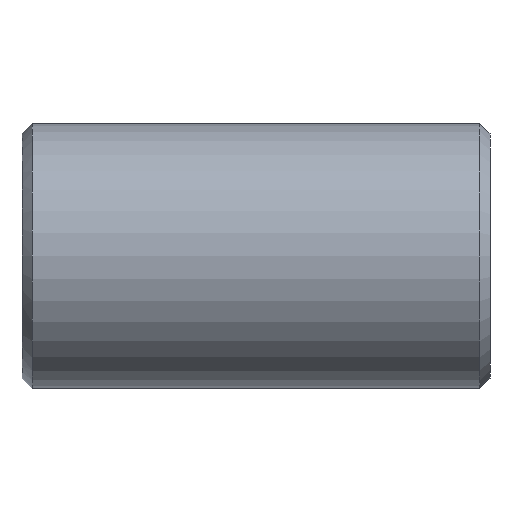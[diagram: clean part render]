
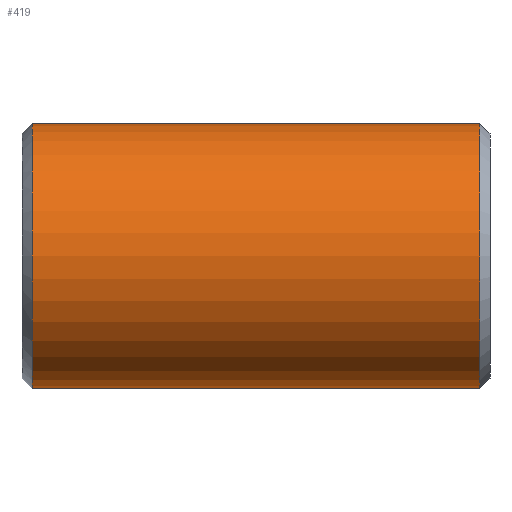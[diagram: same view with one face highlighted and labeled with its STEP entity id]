
A CAD part, front view. The second image highlights one B-rep face of the part: STEP entity #419.
In plain terms, the highlighted cylindrical face has radius 13 mm (diameter 26 mm), a partial arc.
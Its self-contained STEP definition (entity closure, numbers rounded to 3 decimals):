
#231=CARTESIAN_POINT('Vertex',(1.,0.,-13.)) ;
#238=CARTESIAN_POINT('Vertex',(1.,0.,13.)) ;
#267=CARTESIAN_POINT('Axis2P3D Location',(1.,0.,0.)) ;
#271=CARTESIAN_POINT('Vertex',(1.,-13.,0.)) ;
#274=CARTESIAN_POINT('Axis2P3D Location',(1.,0.,0.)) ;
#359=CARTESIAN_POINT('Line Origine',(46.,0.,13.)) ;
#363=CARTESIAN_POINT('Vertex',(45.,0.,13.)) ;
#377=CARTESIAN_POINT('Vertex',(45.,0.,-13.)) ;
#380=CARTESIAN_POINT('Line Origine',(46.,0.,-13.)) ;
#394=CARTESIAN_POINT('Axis2P3D Location',(46.,0.,0.)) ;
#399=CARTESIAN_POINT('Axis2P3D Location',(45.,0.,0.)) ;
#403=CARTESIAN_POINT('Vertex',(45.,-13.,0.)) ;
#406=CARTESIAN_POINT('Axis2P3D Location',(45.,0.,0.)) ;
#268=DIRECTION('Axis2P3D Direction',(1.,0.,-0.)) ;
#275=DIRECTION('Axis2P3D Direction',(1.,0.,-0.)) ;
#360=DIRECTION('Vector Direction',(-1.,0.,0.)) ;
#381=DIRECTION('Vector Direction',(-1.,0.,0.)) ;
#395=DIRECTION('Axis2P3D Direction',(-1.,-0.,-0.)) ;
#396=DIRECTION('Axis2P3D XDirection',(0.,0.,-1.)) ;
#400=DIRECTION('Axis2P3D Direction',(-1.,-0.,-0.)) ;
#407=DIRECTION('Axis2P3D Direction',(-1.,-0.,-0.)) ;
#269=AXIS2_PLACEMENT_3D('Circle Axis2P3D',#267,#268,$) ;
#276=AXIS2_PLACEMENT_3D('Circle Axis2P3D',#274,#275,$) ;
#397=AXIS2_PLACEMENT_3D('Cylinder Axis2P3D',#394,#395,#396) ;
#401=AXIS2_PLACEMENT_3D('Circle Axis2P3D',#399,#400,$) ;
#408=AXIS2_PLACEMENT_3D('Circle Axis2P3D',#406,#407,$) ;
#412=ORIENTED_EDGE('',*,*,#384,.T.) ;
#413=ORIENTED_EDGE('',*,*,#405,.F.) ;
#414=ORIENTED_EDGE('',*,*,#410,.F.) ;
#415=ORIENTED_EDGE('',*,*,#365,.T.) ;
#416=ORIENTED_EDGE('',*,*,#278,.T.) ;
#417=ORIENTED_EDGE('',*,*,#273,.T.) ;
#361=VECTOR('Line Direction',#360,1.) ;
#382=VECTOR('Line Direction',#381,1.) ;
#419=ADVANCED_FACE('352-18X46',(#418),#398,.T.) ;
#270=CIRCLE('generated circle',#269,13.) ;
#277=CIRCLE('generated circle',#276,13.) ;
#402=CIRCLE('generated circle',#401,13.) ;
#409=CIRCLE('generated circle',#408,13.) ;
#398=CYLINDRICAL_SURFACE('generated cylinder',#397,13.) ;
#273=EDGE_CURVE('',#272,#232,#270,.T.) ;
#278=EDGE_CURVE('',#239,#272,#277,.T.) ;
#365=EDGE_CURVE('',#364,#239,#362,.T.) ;
#384=EDGE_CURVE('',#232,#378,#383,.F.) ;
#405=EDGE_CURVE('',#404,#378,#402,.F.) ;
#410=EDGE_CURVE('',#364,#404,#409,.F.) ;
#411=EDGE_LOOP('',(#412,#413,#414,#415,#416,#417)) ;
#418=FACE_OUTER_BOUND('',#411,.T.) ;
#362=LINE('Line',#359,#361) ;
#383=LINE('Line',#380,#382) ;
#232=VERTEX_POINT('',#231) ;
#239=VERTEX_POINT('',#238) ;
#272=VERTEX_POINT('',#271) ;
#364=VERTEX_POINT('',#363) ;
#378=VERTEX_POINT('',#377) ;
#404=VERTEX_POINT('',#403) ;
